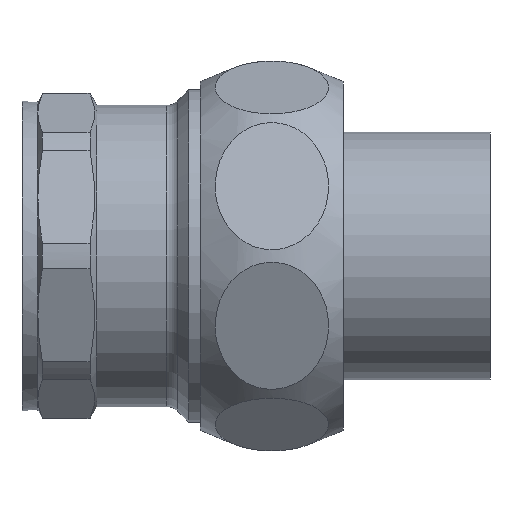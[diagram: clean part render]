
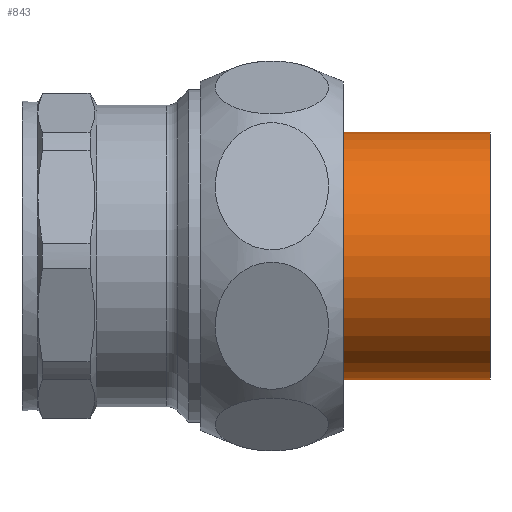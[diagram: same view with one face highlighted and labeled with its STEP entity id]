
A CAD part, front view. The second image highlights one B-rep face of the part: STEP entity #843.
In plain terms, the highlighted cylindrical face has radius 15.6 mm (diameter 31.2 mm), a full revolution.
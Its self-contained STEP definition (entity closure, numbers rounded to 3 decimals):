
#155=FACE_BOUND('',#260,.T.);
#193=FACE_OUTER_BOUND('',#259,.T.);
#259=EDGE_LOOP('',(#608));
#260=EDGE_LOOP('',(#609));
#359=CIRCLE('',#914,15.6);
#360=CIRCLE('',#916,15.6);
#416=VERTEX_POINT('',#1319);
#417=VERTEX_POINT('',#1322);
#498=EDGE_CURVE('',#416,#416,#359,.T.);
#499=EDGE_CURVE('',#417,#417,#360,.T.);
#608=ORIENTED_EDGE('',*,*,#499,.F.);
#609=ORIENTED_EDGE('',*,*,#498,.T.);
#821=CYLINDRICAL_SURFACE('',#915,15.6);
#843=ADVANCED_FACE('',(#193,#155),#821,.T.);
#914=AXIS2_PLACEMENT_3D('',#1320,#1048,#1049);
#915=AXIS2_PLACEMENT_3D('',#1321,#1050,#1051);
#916=AXIS2_PLACEMENT_3D('',#1323,#1052,#1053);
#1048=DIRECTION('center_axis',(1.,0.,0.));
#1049=DIRECTION('ref_axis',(0.,1.,0.));
#1050=DIRECTION('center_axis',(1.,0.,0.));
#1051=DIRECTION('ref_axis',(0.,1.,0.));
#1052=DIRECTION('center_axis',(1.,0.,0.));
#1053=DIRECTION('ref_axis',(0.,1.,0.));
#1319=CARTESIAN_POINT('',(4.,15.6,0.));
#1320=CARTESIAN_POINT('Origin',(4.,0.,0.));
#1321=CARTESIAN_POINT('Origin',(15.,0.,0.));
#1322=CARTESIAN_POINT('',(26.,15.6,0.));
#1323=CARTESIAN_POINT('Origin',(26.,0.,0.));
